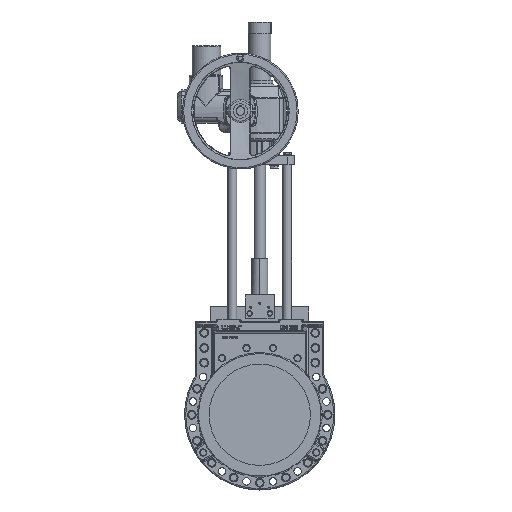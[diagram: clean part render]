
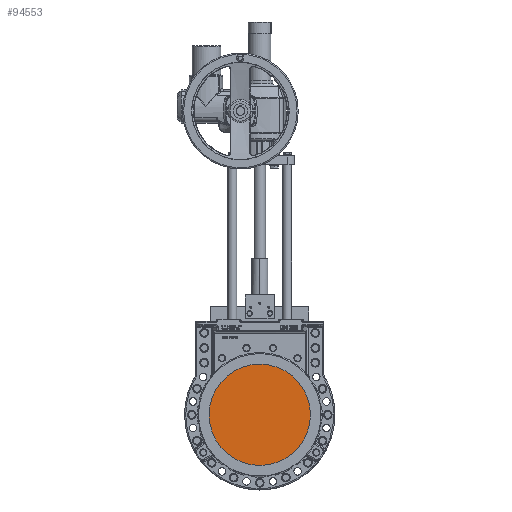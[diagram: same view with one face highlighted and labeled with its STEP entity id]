
A CAD part, top view. The second image highlights one B-rep face of the part: STEP entity #94553.
In plain terms, the highlighted planar face has unit normal (0, 0, 1).
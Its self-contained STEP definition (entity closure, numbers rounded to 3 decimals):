
#2801 = DIRECTION ( 'NONE',  ( 1., 0., 0. ) ) ;
#3946 = DIRECTION ( 'NONE',  ( 1., 0., 0. ) ) ;
#15973 = FACE_OUTER_BOUND ( 'NONE', #64279, .T. ) ;
#45245 = CARTESIAN_POINT ( 'NONE',  ( -175., 0., -0.25 ) ) ;
#50404 = EDGE_CURVE ( 'NONE', #169607, #122223, #140958, .T. ) ;
#50707 = CARTESIAN_POINT ( 'NONE',  ( 0., 0., -0.25 ) ) ;
#64279 = EDGE_LOOP ( 'NONE', ( #98080, #79390 ) ) ;
#77238 = PLANE ( 'NONE',  #115412 ) ;
#79390 = ORIENTED_EDGE ( 'NONE', *, *, #93053, .T. ) ;
#81904 = DIRECTION ( 'NONE',  ( 0., 0., 1. ) ) ;
#83086 = DIRECTION ( 'NONE',  ( 0., 0., 1. ) ) ;
#90441 = DIRECTION ( 'NONE',  ( 1., 0., 0. ) ) ;
#93053 = EDGE_CURVE ( 'NONE', #122223, #169607, #138938, .T. ) ;
#94553 = ADVANCED_FACE ( 'NONE', ( #15973 ), #77238, .T. ) ;
#98080 = ORIENTED_EDGE ( 'NONE', *, *, #50404, .T. ) ;
#115412 = AXIS2_PLACEMENT_3D ( 'NONE', #50707, #169745, #90441 ) ;
#122223 = VERTEX_POINT ( 'NONE', #156370 ) ;
#138938 = CIRCLE ( 'NONE', #154902, 175. ) ;
#140958 = CIRCLE ( 'NONE', #143594, 175. ) ;
#143594 = AXIS2_PLACEMENT_3D ( 'NONE', #161093, #81904, #2801 ) ;
#154902 = AXIS2_PLACEMENT_3D ( 'NONE', #162282, #83086, #3946 ) ;
#156370 = CARTESIAN_POINT ( 'NONE',  ( 175., 0., -0.25 ) ) ;
#161093 = CARTESIAN_POINT ( 'NONE',  ( 0., 0., -0.25 ) ) ;
#162282 = CARTESIAN_POINT ( 'NONE',  ( 0., 0., -0.25 ) ) ;
#169607 = VERTEX_POINT ( 'NONE', #45245 ) ;
#169745 = DIRECTION ( 'NONE',  ( 0., 0., 1. ) ) ;
